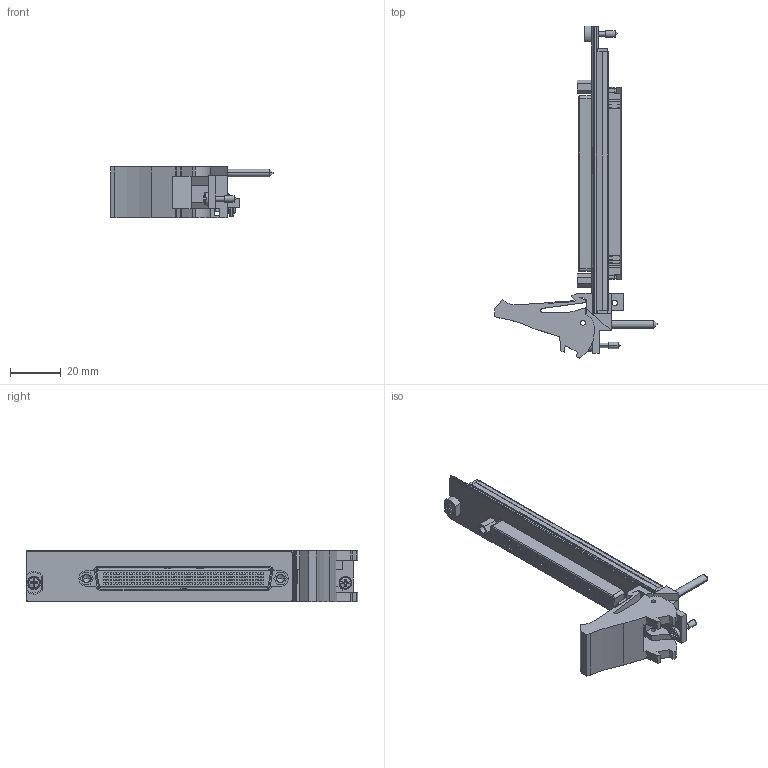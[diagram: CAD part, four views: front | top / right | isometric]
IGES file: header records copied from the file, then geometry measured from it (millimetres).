
Start section:  PTC IGES file: cu_pxi-2569.igs
Global section: file name: cu_pxi-2569.igs; native system: Pro/ENGINEER by Parametric Technology Corporation; preprocessor: 2006080; author: jjorden; organization: Unknown; date: 090901.144352; units: inch
Bounding box: 63.73 x 130.5 x 20.31 mm (x, y, z)
Surface area: 23243.7 mm2 (no closed solid volume)
Topology: 0 solids, 0 shells, 2303 faces, 12208 edges, 12200 vertices
Faces by surface type: bspline 2141, revolution 162
